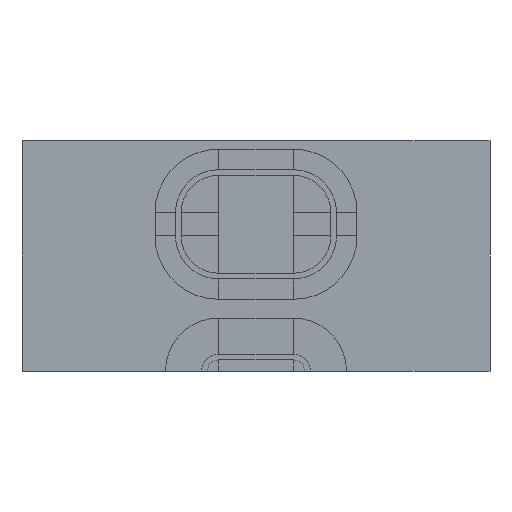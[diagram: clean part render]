
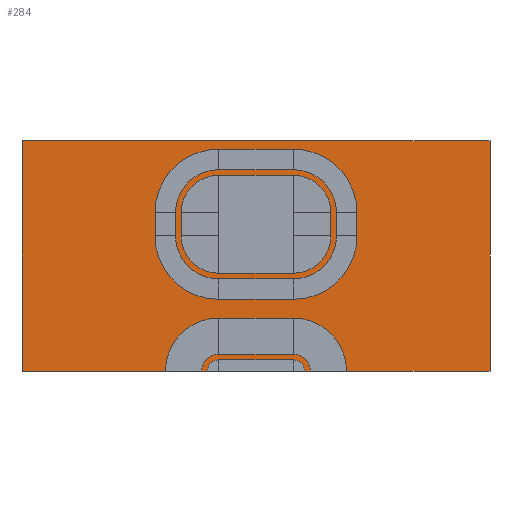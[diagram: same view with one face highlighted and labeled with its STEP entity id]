
A CAD part, front view. The second image highlights one B-rep face of the part: STEP entity #284.
In plain terms, the highlighted planar face has unit normal (0, -1, 0).
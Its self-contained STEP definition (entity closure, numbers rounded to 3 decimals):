
#284=ADVANCED_FACE('',(#435),#436,.T.);
#435=FACE_OUTER_BOUND('',#709,.T.);
#436=PLANE('',#710);
#709=EDGE_LOOP('',(#993,#994,#995,#996));
#710=AXIS2_PLACEMENT_3D('',#997,#998,#999);
#993=ORIENTED_EDGE('',*,*,#1878,.T.);
#994=ORIENTED_EDGE('',*,*,#1879,.F.);
#995=ORIENTED_EDGE('',*,*,#1880,.F.);
#996=ORIENTED_EDGE('',*,*,#1876,.T.);
#997=CARTESIAN_POINT('',(0.0,61.1,0.0));
#998=DIRECTION('',(0.0,-1.0,0.0));
#999=DIRECTION('',(1.0,0.0,-0.0));
#1876=EDGE_CURVE('',#2148,#2146,#2149,.T.);
#1878=EDGE_CURVE('',#2146,#2151,#2152,.T.);
#1879=EDGE_CURVE('',#2153,#2151,#2154,.T.);
#1880=EDGE_CURVE('',#2148,#2153,#2155,.T.);
#2146=VERTEX_POINT('',#2558);
#2148=VERTEX_POINT('',#2561);
#2149=LINE('',#2562,#2563);
#2151=VERTEX_POINT('',#2566);
#2152=LINE('',#2567,#2568);
#2153=VERTEX_POINT('',#2569);
#2154=LINE('',#2570,#2571);
#2155=LINE('',#2572,#2573);
#2558=CARTESIAN_POINT('',(125.0,61.1,123.0));
#2561=CARTESIAN_POINT('',(125.0,61.1,0.0));
#2562=CARTESIAN_POINT('',(125.0,61.1,0.0));
#2563=VECTOR('',#3175,1.0);
#2566=CARTESIAN_POINT('',(-125.0,61.1,123.0));
#2567=CARTESIAN_POINT('',(125.0,61.1,123.0));
#2568=VECTOR('',#3177,1.0);
#2569=CARTESIAN_POINT('',(-125.0,61.1,0.0));
#2570=CARTESIAN_POINT('',(-125.0,61.1,0.0));
#2571=VECTOR('',#3178,1.0);
#2572=CARTESIAN_POINT('',(125.0,61.1,0.0));
#2573=VECTOR('',#3179,1.0);
#3175=DIRECTION('',(0.0,0.0,1.0));
#3177=DIRECTION('',(-1.0,0.0,0.0));
#3178=DIRECTION('',(0.0,0.0,1.0));
#3179=DIRECTION('',(-1.0,0.0,0.0));
